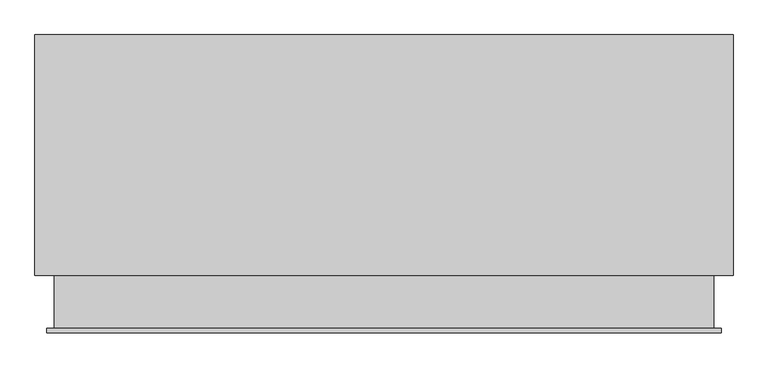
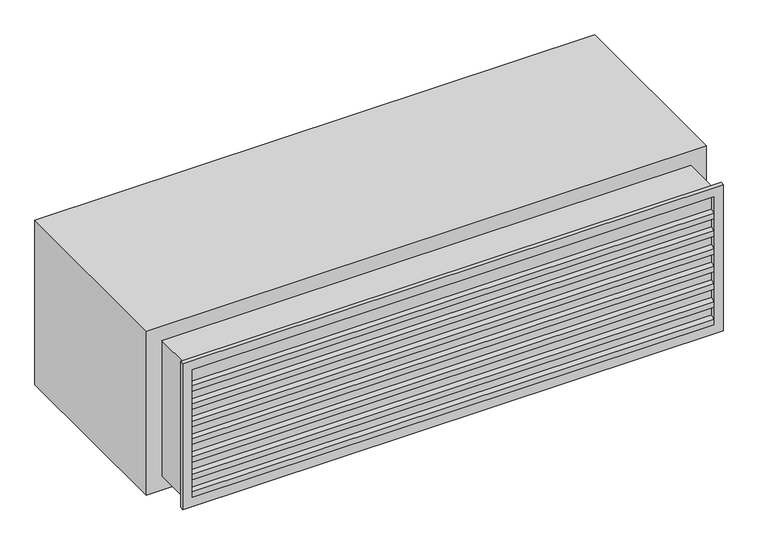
"""IFC4 building model written with IfcOpenShell, lengths in millimetres: air terminal geometry, 020_排気ガラリ : 排気ガラリ."""

import ifcopenshell
import ifcopenshell.guid

model = None  # the IFC model being written
_history = None  # IfcOwnerHistory: only IFC2X3 demands one
_inside = {}  # id of a spatial element -> (the spatial element, [elements in it])
_under = {}  # id of a project, library or spatial element -> (it, [spatial elements below it])
_declared = {}  # id of a project -> (the project, [libraries it declares])
_typed = {}  # id of a type object -> (the type object, [elements of that type])
_made_of = {}  # id of a material, layer set ... -> (it, [elements and type objects made of it])


def new_model(schema):
    """Start an empty IFC model of exactly this schema.

    Asked for "IFC4X3", IfcOpenShell would pick the latest addendum, in which some entities
    have other attributes; the version numbers below select the first issue.
    IFC2X3 requires an IfcOwnerHistory on every rooted entity: one is made here for all.
    """
    global model, _history
    if schema == "IFC4X3":
        model = ifcopenshell.file(schema_version=(4, 3, 0, 0))
    else:
        model = ifcopenshell.file(schema=schema)
    _inside.clear()
    _under.clear()
    _declared.clear()
    _typed.clear()
    _made_of.clear()
    _history = None
    if model.schema == "IFC2X3":
        org = make("IfcOrganization", Name="unknown")
        user = make(
            "IfcPersonAndOrganization",
            ThePerson=make("IfcPerson", FamilyName="unknown"),
            TheOrganization=org,
        )
        app = make(
            "IfcApplication",
            ApplicationDeveloper=org,
            Version="unknown",
            ApplicationFullName="unknown",
            ApplicationIdentifier="unknown",
        )
        _history = make(
            "IfcOwnerHistory",
            OwningUser=user,
            OwningApplication=app,
            ChangeAction="ADDED",
            CreationDate=0,
        )
    return model


def make(cls, **values):
    """One entity of the class cls with the attributes given. An attribute that is None is left unset."""
    return model.create_entity(
        cls, **{name: value for name, value in values.items() if value is not None}
    )


def rooted(cls, **values):
    """An entity with a GlobalId (a new one), such as an element, a storey or a relation."""
    return make(cls, GlobalId=ifcopenshell.guid.new(), OwnerHistory=_history, **values)


def si_unit(unit_type, name, prefix=None):
    """IfcSIUnit, for example si_unit("LENGTHUNIT", "METRE", prefix="MILLI")."""
    return make("IfcSIUnit", UnitType=unit_type, Prefix=prefix, Name=name)


def assignment(units):
    """IfcUnitAssignment: the units of a project."""
    return None if units is None else make("IfcUnitAssignment", Units=units)


def point(xyz):
    """IfcCartesianPoint."""
    return None if xyz is None else make("IfcCartesianPoint", Coordinates=xyz)


def direction(xyz):
    """IfcDirection."""
    return None if xyz is None else make("IfcDirection", DirectionRatios=xyz)


def frame(location, z_axis=None, x_axis=None):
    """IfcAxis2Placement3D, a coordinate frame: its origin and axes. An axis left out is left unset."""
    return make(
        "IfcAxis2Placement3D",
        Location=point(location),
        Axis=direction(z_axis),
        RefDirection=direction(x_axis),
    )


def origin():
    """The frame at (0, 0, 0) with its axes left unset."""
    return frame((0.0, 0.0, 0.0))


def place(relative_to, where):
    """IfcLocalPlacement: puts the frame where relative to a parent placement (None: the world)."""
    return make(
        "IfcLocalPlacement", PlacementRelTo=relative_to, RelativePlacement=where
    )


def context(
    kind, dimensions, precision=None, world=None, true_north=None, identifier=None
):
    """IfcGeometricRepresentationContext, for example the 3D "Model" context."""
    return make(
        "IfcGeometricRepresentationContext",
        ContextIdentifier=identifier,
        ContextType=kind,
        CoordinateSpaceDimension=dimensions,
        Precision=precision,
        WorldCoordinateSystem=world,
        TrueNorth=true_north,
    )


def project(units=None, contexts=None):
    """IfcProject with its units and contexts."""
    return rooted(
        "IfcProject",
        Name="project",
        RepresentationContexts=contexts,
        UnitsInContext=assignment(units),
    )


def spatial(cls, under=None, at=None, **own):
    """A site, building, storey or space (cls), placed at a placement, below another one or the project."""
    s = rooted(cls, ObjectPlacement=at, **own)
    if under is not None:
        _under.setdefault(under.id(), (under, []))[1].append(s)
    return s


def polyline(points):
    """IfcPolyline through the points."""
    return make("IfcPolyline", Points=[point(p) for p in points])


def outline(outer, holes=None, kind="AREA"):
    """IfcArbitraryClosedProfileDef: a profile drawn as a closed curve; with holes, ...WithVoids."""
    if holes is None:
        return make("IfcArbitraryClosedProfileDef", ProfileType=kind, OuterCurve=outer)
    return make(
        "IfcArbitraryProfileDefWithVoids",
        ProfileType=kind,
        OuterCurve=outer,
        InnerCurves=holes,
    )


def extrude(swept, where, along, depth):
    """IfcExtrudedAreaSolid: the profile swept, set in the frame where, extruded along a direction by depth."""
    return make(
        "IfcExtrudedAreaSolid",
        SweptArea=swept,
        Position=where,
        ExtrudedDirection=direction(along),
        Depth=depth,
    )


def faces_of(points, faces, orient=None, outer=None):
    """IfcFace entities. A face is a list of loops; a loop is a list of indices into points, from 0.

    orient and outer hold one flag for each loop. By default every Orientation is true, the
    first loop of a face is its IfcFaceOuterBound and the others are IfcFaceBound.
    """
    made = []
    for i, loops in enumerate(faces):
        bounds = []
        for j, loop in enumerate(loops):
            is_outer = j == 0 if outer is None else outer[i][j]
            bounds.append(
                make(
                    "IfcFaceOuterBound" if is_outer else "IfcFaceBound",
                    Bound=make("IfcPolyLoop", Polygon=[points[k] for k in loop]),
                    Orientation=True if orient is None else orient[i][j],
                )
            )
        made.append(make("IfcFace", Bounds=bounds))
    return made


def faceted_brep(points, faces, orient=None, outer=None, voids=None):
    """IfcFacetedBrep: a solid bounded by flat faces; with voids (closed shells), ...WithVoids."""
    shared = [point(p) for p in points]
    hull = make("IfcClosedShell", CfsFaces=faces_of(shared, faces, orient, outer))
    if voids is None:
        return make("IfcFacetedBrep", Outer=hull)
    return make(
        "IfcFacetedBrepWithVoids",
        Outer=hull,
        Voids=[
            make(cls, CfsFaces=faces_of(shared, fs, o, b)) for cls, fs, o, b in voids
        ],
    )


def shape(context_of_items, identifier, shape_type, items):
    """IfcShapeRepresentation: the items that make up one representation, for example the "Body"."""
    return make(
        "IfcShapeRepresentation",
        ContextOfItems=context_of_items,
        RepresentationIdentifier=identifier,
        RepresentationType=shape_type,
        Items=items,
    )


def source(mapping_origin, context_of_items, identifier, shape_type, items):
    """IfcRepresentationMap: a shape defined once, which mapped items show again and again."""
    return make(
        "IfcRepresentationMap",
        MappingOrigin=mapping_origin,
        MappedRepresentation=shape(context_of_items, identifier, shape_type, items),
    )


def transform(
    local_origin,
    x_axis=None,
    y_axis=None,
    z_axis=None,
    scale=None,
    scale2=None,
    scale3=None,
    uniform=True,
):
    """IfcCartesianTransformationOperator3D, or its non-uniform kind. x_axis, y_axis, z_axis: its Axis1, 2, 3."""
    if uniform:
        return make(
            "IfcCartesianTransformationOperator3D",
            Axis1=direction(x_axis),
            Axis2=direction(y_axis),
            LocalOrigin=point(local_origin),
            Scale=scale,
            Axis3=direction(z_axis),
        )
    return make(
        "IfcCartesianTransformationOperator3DnonUniform",
        Axis1=direction(x_axis),
        Axis2=direction(y_axis),
        LocalOrigin=point(local_origin),
        Scale=scale,
        Axis3=direction(z_axis),
        Scale2=scale2,
        Scale3=scale3,
    )


def mapped(mapping_source, mapping_target):
    """IfcMappedItem: shows the shape of a source again, moved by a transform."""
    return make(
        "IfcMappedItem", MappingSource=mapping_source, MappingTarget=mapping_target
    )


def made_of(thing, what):
    """Note that an element or type object is made of a material, layer set ...; save() writes the relation."""
    if what is not None:
        _made_of.setdefault(what.id(), (what, []))[1].append(thing)
    return thing


def element(
    cls,
    number,
    at=None,
    inside=None,
    cuts=None,
    type_object=None,
    material=None,
    context=None,
    identifier="Body",
    shape_type=None,
    held_by="IfcProductDefinitionShape",
    body=None,
    shapes=None,
    **own,
):
    """One element of the class cls, such as IfcWall. Its Tag is "e" and its number.

    at: its placement. inside: the storey or other place that contains it. cuts: it is an
    opening in that element (IfcRelVoidsElement). A single representation is given by context,
    identifier, shape_type and body (its items); several are given by shapes. held_by: the class
    of the entity that holds the representations. save() writes the other relations.
    """
    e = rooted(cls, Tag="e%d" % number, ObjectPlacement=at, **own)
    if body is not None:
        shapes = [shape(context, identifier, shape_type, body)]
    if shapes is not None:
        e.Representation = make(held_by, Representations=shapes)
    if inside is not None:
        _inside.setdefault(inside.id(), (inside, []))[1].append(e)
    if cuts is not None:
        rooted(
            "IfcRelVoidsElement", RelatingBuildingElement=cuts, RelatedOpeningElement=e
        )
    if type_object is not None:
        _typed.setdefault(type_object.id(), (type_object, []))[1].append(e)
    return made_of(e, material)


def aggregate(whole, parts):
    """IfcRelAggregates: a whole, such as a stair, and the parts it consists of."""
    return rooted("IfcRelAggregates", RelatingObject=whole, RelatedObjects=parts)


def save(model, path):
    """Write the relations noted so far, then the file.

    IfcRelAggregates (storeys below a building ...), IfcRelContainedInSpatialStructure (elements
    in a storey), IfcRelDefinesByType, IfcRelAssociatesMaterial and IfcRelDeclares: one each for
    every whole, place, type object, material and project.
    """
    for whole, parts in _under.values():
        aggregate(whole, parts)
    for where, things in _inside.values():
        rooted(
            "IfcRelContainedInSpatialStructure",
            RelatedElements=things,
            RelatingStructure=where,
        )
    for kind, things in _typed.values():
        rooted("IfcRelDefinesByType", RelatedObjects=things, RelatingType=kind)
    for what, things in _made_of.values():
        rooted("IfcRelAssociatesMaterial", RelatedObjects=things, RelatingMaterial=what)
    for by, libraries in _declared.values():
        rooted("IfcRelDeclares", RelatingContext=by, RelatedDefinitions=libraries)
    model.write(path)


def air_terminal_84f5a6de(model_context):
    return source(origin(), model_context, "Body", "SolidModel", [
        extrude(outline(polyline([(48.0, 126.6666667), (50.0, 126.6666667), (50.0, 110.4494491), (-8.0, 80.4494491), (-8.0, 66.6666667), (-10.0, 66.6666667), (-10.0, 81.6666667), (48.0, 111.6666667), (48.0, 126.6666667)])), frame((-675.0, 0.0, 0.0), z_axis=(1.0, 0.0, 0.0), x_axis=(0.0, 1.0, 0.0)), (0.0, 0.0, 1.0), 1350.0),
        extrude(outline(polyline([(48.0, 78.3333333), (50.0, 78.3333333), (50.0, 62.1161157), (-8.0, 32.1161157), (-8.0, 18.3333333), (-10.0, 18.3333333), (-10.0, 33.3333333), (48.0, 63.3333333), (48.0, 78.3333333)])), frame((-675.0, 0.0, 0.0), z_axis=(1.0, 0.0, 0.0), x_axis=(0.0, 1.0, 0.0)), (0.0, 0.0, 1.0), 1350.0),
        extrude(outline(polyline([(48.0, 30.0), (50.0, 30.0), (50.0, 13.7827824), (-8.0, -16.2172176), (-8.0, -30.0), (-10.0, -30.0), (-10.0, -15.0), (48.0, 15.0), (48.0, 30.0)])), frame((-675.0, 0.0, 0.0), z_axis=(1.0, 0.0, 0.0), x_axis=(0.0, 1.0, 0.0)), (0.0, 0.0, 1.0), 1350.0),
        extrude(outline(polyline([(48.0, -18.3333333), (50.0, -18.3333333), (50.0, -34.5505509), (-8.0, -64.5505509), (-8.0, -78.3333333), (-10.0, -78.3333333), (-10.0, -63.3333333), (48.0, -33.3333333), (48.0, -18.3333333)])), frame((-675.0, 0.0, 0.0), z_axis=(1.0, 0.0, 0.0), x_axis=(0.0, 1.0, 0.0)), (0.0, 0.0, 1.0), 1350.0),
        extrude(outline(polyline([(48.0, -66.6666667), (50.0, -66.6666667), (50.0, -82.8838843), (-8.0, -112.8838843), (-8.0, -126.6666667), (-10.0, -126.6666667), (-10.0, -111.6666667), (48.0, -81.6666667), (48.0, -66.6666667)])), frame((-675.0, 0.0, 0.0), z_axis=(1.0, 0.0, 0.0), x_axis=(0.0, 1.0, 0.0)), (0.0, 0.0, 1.0), 1350.0),
        extrude(outline(polyline([(48.0, 175.0), (50.0, 175.0), (50.0, 158.7827824), (-8.0, 128.7827824), (-8.0, 115.0), (-10.0, 115.0), (-10.0, 130.0), (48.0, 160.0), (48.0, 175.0)])), frame((-675.0, 0.0, 0.0), z_axis=(1.0, 0.0, 0.0), x_axis=(0.0, 1.0, 0.0)), (0.0, 0.0, 1.0), 1350.0),
        extrude(outline(polyline([(48.0, -115.0), (50.0, -115.0), (50.0, -131.2172176), (-8.0, -161.2172176), (-8.0, -175.0), (-10.0, -175.0), (-10.0, -160.0), (48.0, -130.0), (48.0, -115.0)])), frame((-675.0, 0.0, 0.0), z_axis=(1.0, 0.0, 0.0), x_axis=(0.0, 1.0, 0.0)), (0.0, 0.0, 1.0), 1350.0),
        faceted_brep([(675.0, -10.0, 175.0), (675.0, 110.0, 175.0), (675.0, 110.0, -175.0), (675.0, -10.0, -175.0), (700.0, 0.0, 200.0), (700.0, -10.0, 200.0), (700.0, -10.0, -200.0), (700.0, 0.0, -200.0), (685.0, 110.0, 185.0), (685.0, 0.0, 185.0), (685.0, 0.0, -185.0), (685.0, 110.0, -185.0), (-675.0, 110.0, -175.0), (-675.0, -10.0, -175.0), (-700.0, -10.0, -200.0), (-700.0, 0.0, -200.0), (-685.0, 0.0, -185.0), (-685.0, 110.0, -185.0), (-675.0, 110.0, 175.0), (-675.0, -10.0, 175.0), (-700.0, -10.0, 200.0), (-700.0, 0.0, 200.0), (-685.0, 0.0, 185.0), (-685.0, 110.0, 185.0)], [[[0, 1, 2, 3]], [[4, 5, 6, 7]], [[8, 9, 10, 11]], [[3, 2, 12, 13]], [[7, 6, 14, 15]], [[11, 10, 16, 17]], [[13, 12, 18, 19]], [[15, 14, 20, 21]], [[17, 16, 22, 23]], [[19, 18, 1, 0]], [[5, 20, 14, 6], [3, 13, 19, 0]], [[21, 20, 5, 4]], [[7, 15, 21, 4], [9, 22, 16, 10]], [[23, 22, 9, 8]], [[11, 17, 23, 8], [1, 18, 12, 2]]]),
        extrude(outline(polyline([(675.0, 0.0), (-675.0, 0.0), (-675.0, 10.0), (675.0, 10.0), (675.0, 0.0)])), frame((0.0, 0.0, -175.0), z_axis=(0.0, 0.0, 1.0), x_axis=(1.0, 0.0, 0.0)), (0.0, 0.0, 1.0), 350.0),
        extrude(outline(polyline([(725.0, 110.0), (-725.0, 110.0), (-725.0, 610.0), (725.0, 610.0), (725.0, 110.0)])), frame((0.0, 0.0, -225.0), z_axis=(0.0, 0.0, 1.0), x_axis=(1.0, 0.0, 0.0)), (0.0, 0.0, 1.0), 450.0),
    ])


if __name__ == "__main__":
    model = new_model("IFC4")
    model_context = context("Model", 3, world=origin())
    ifc_project = project(units=[si_unit("LENGTHUNIT", "METRE", prefix="MILLI")], contexts=[model_context])
    site = spatial("IfcSite", under=ifc_project)
    building = spatial("IfcBuilding", under=site)
    placement = place(None, origin())
    air_terminal_shape = air_terminal_84f5a6de(model_context)
    element("IfcAirTerminal", 1, ObjectType="020_排気ガラリ : 排気ガラリ", at=placement, inside=building, context=model_context, shape_type="MappedRepresentation", body=[
        mapped(air_terminal_shape, transform((0.0, 0.0, 0.0), x_axis=(1.0, 0.0, 0.0), y_axis=(0.0, 1.0, 0.0), z_axis=(0.0, 0.0, 1.0))),
    ])
    save(model, "model.ifc")
